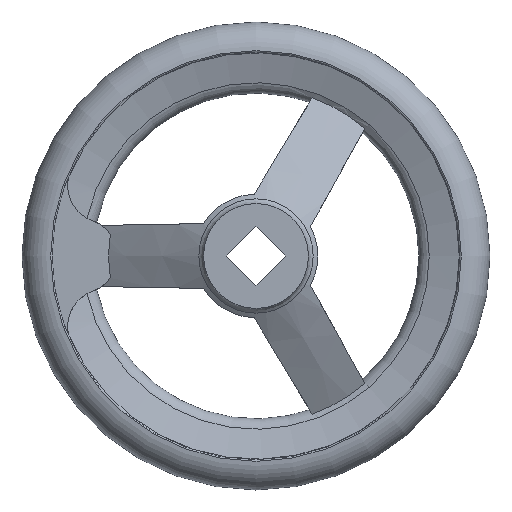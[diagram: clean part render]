
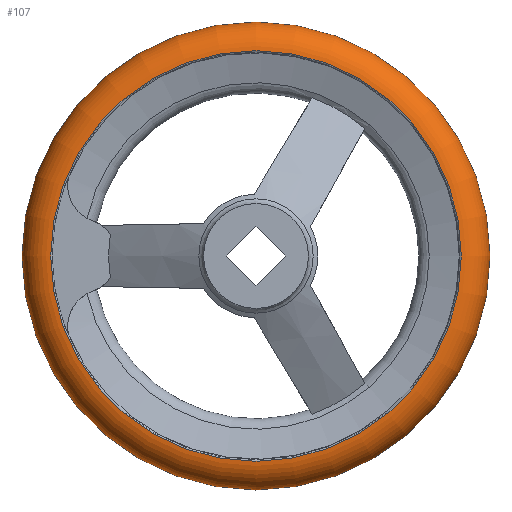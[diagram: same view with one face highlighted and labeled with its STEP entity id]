
A CAD part, left-side view. The second image highlights one B-rep face of the part: STEP entity #107.
In plain terms, the highlighted toroidal (fillet/blend) face has major radius 54.493 mm and minor radius 8.007 mm.
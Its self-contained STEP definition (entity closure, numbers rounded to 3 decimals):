
#107 = ADVANCED_FACE( '', ( #198, #199, #200 ), #201, .T. );
#198 = FACE_BOUND( '', #300, .T. );
#199 = FACE_OUTER_BOUND( '', #301, .T. );
#200 = FACE_OUTER_BOUND( '', #302, .T. );
#201 = TOROIDAL_SURFACE( '', #303, 54.493, 8.007 );
#300 = VERTEX_LOOP( '', #573 );
#301 = EDGE_LOOP( '', ( #574 ) );
#302 = EDGE_LOOP( '', ( #575 ) );
#303 = AXIS2_PLACEMENT_3D( '', #576, #577, #578 );
#573 = VERTEX_POINT( '', #756 );
#574 = ORIENTED_EDGE( '', *, *, #755, .T. );
#575 = ORIENTED_EDGE( '', *, *, #747, .F. );
#576 = CARTESIAN_POINT( '', ( 28., 0., 0. ) );
#577 = DIRECTION( '', ( 1., 0., 0. ) );
#578 = DIRECTION( '', ( 0., 1., 0. ) );
#747 = EDGE_CURVE( '', #920, #920, #921, .T. );
#755 = EDGE_CURVE( '', #932, #932, #933, .T. );
#756 = CARTESIAN_POINT( '', ( 28., 62.5, 0. ) );
#920 = VERTEX_POINT( '', #1467 );
#921 = CIRCLE( '', #1468, 54.833 );
#932 = VERTEX_POINT( '', #1513 );
#933 = CIRCLE( '', #1514, 54.833 );
#1467 = CARTESIAN_POINT( '', ( 36., 54.833, 0. ) );
#1468 = AXIS2_PLACEMENT_3D( '', #1633, #1634, #1635 );
#1513 = CARTESIAN_POINT( '', ( 20., 54.833, 0. ) );
#1514 = AXIS2_PLACEMENT_3D( '', #1651, #1652, #1653 );
#1633 = CARTESIAN_POINT( '', ( 36., 0., 0. ) );
#1634 = DIRECTION( '', ( 1., 0., 0. ) );
#1635 = DIRECTION( '', ( 0., 1., 0. ) );
#1651 = CARTESIAN_POINT( '', ( 20., 0., 0. ) );
#1652 = DIRECTION( '', ( 1., 0., 0. ) );
#1653 = DIRECTION( '', ( 0., 1., 0. ) );
